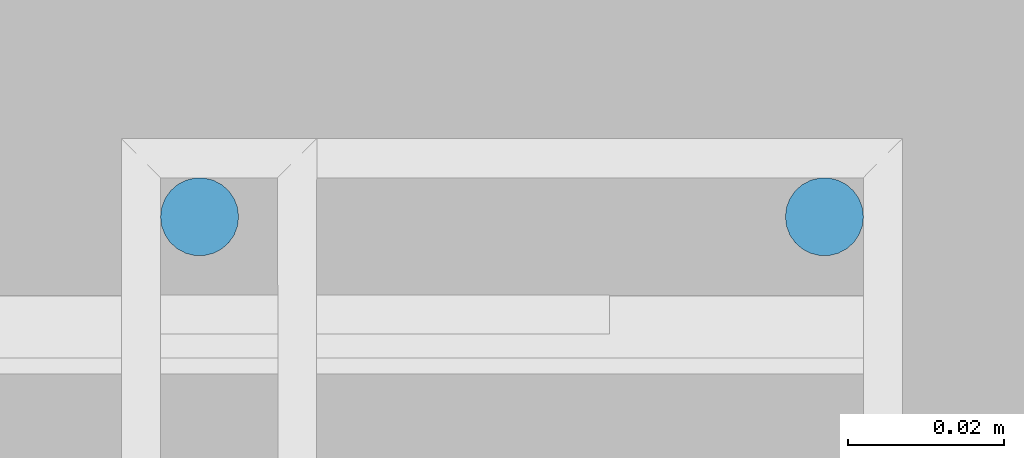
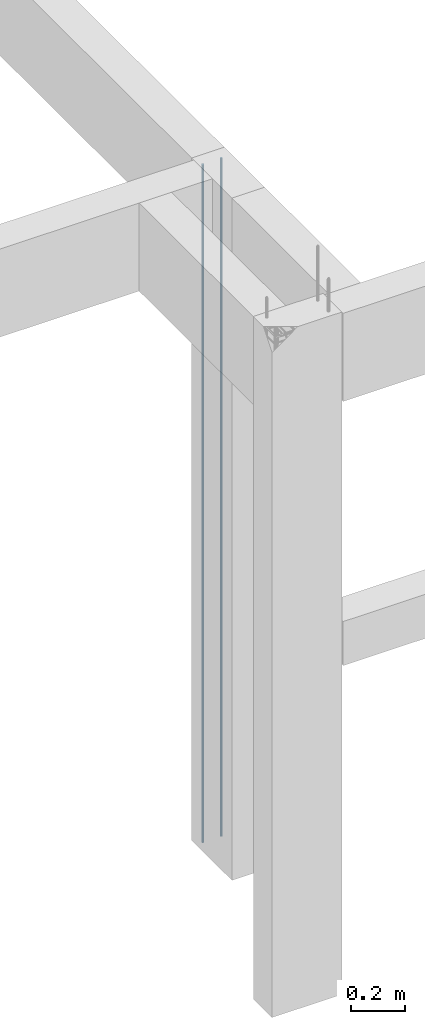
# One storey, part 15 of 236: 2 reinforcing bars.
"""IFC4 building model written with IfcOpenShell, lengths in centimetres."""

from ifc_helpers import new_model, entity, si_unit, derived_unit, frame, origin_with_axes, place, context, project, spatial, element, save


model = new_model("IFC4")

# Units and contexts
model_context = context("Model", 3, precision=1e-05, world=origin_with_axes(), identifier="Body")
ifc_project = project(units=[si_unit("LENGTHUNIT", "METRE", prefix="CENTI"), si_unit("VOLUMEUNIT", "CUBIC_METRE"), si_unit("AREAUNIT", "SQUARE_METRE"), si_unit("POWERUNIT", "WATT"), si_unit("LUMINOUSFLUXUNIT", "LUMEN"), si_unit("ELECTRICCURRENTUNIT", "AMPERE"), si_unit("PRESSUREUNIT", "PASCAL", prefix="KILO"), si_unit("MASSUNIT", "GRAM", prefix="KILO"), si_unit("PLANEANGLEUNIT", "RADIAN"), derived_unit("VOLUMETRICFLOWRATEUNIT", [(si_unit("LENGTHUNIT", "METRE"), 3), (si_unit("TIMEUNIT", "SECOND"), -1)])], contexts=[model_context])

# Site, building, storey
site_placement = place(None, frame((-4000.0, 0.0, 0.0), z_axis=(0.0, 0.0, 1.0), x_axis=(1.0, 0.0, 0.0)))
site = spatial("IfcSite", under=ifc_project, at=site_placement, Name="PADRÃO")
building_placement = place(site_placement, frame((0.0, 0.0, -14.0)))
building = spatial("IfcBuilding", under=site, at=building_placement, Name="CRECHE PRÉ-ESCOLA TIPO 2")
placement_1 = place(building_placement, origin_with_axes())
placement_2 = place(placement_1, frame((0.0, 0.0, 30.0), z_axis=(0.0, 0.0, 1.0), x_axis=(1.0, 0.0, 0.0)))
storey_placement = place(placement_2, frame((0.0, 0.0, 310.0), z_axis=(0.0, 0.0, 1.0), x_axis=(1.0, 0.0, 0.0)))
storey = spatial("IfcBuildingStorey", under=building, at=storey_placement, Name="TERREO", CompositionType="ELEMENT", Elevation=326.0)

# Reinforcing bars
for number, where, z_axis, x_axis, name in (
    (1, (499.57, 520.51, -2.0), (0.0, 0.0, 1.0), (1.0, 0.0, 0.0), "P136 - Longitudinal"),
    (2, (507.57, 520.51, -2.0), (0.0, 0.0, 1.0), (1.0, 0.0, 0.0), "P136 - Longitudinal"),
):
    element("IfcReinforcingBar", number, at=place(storey_placement, frame(where, z_axis=z_axis, x_axis=x_axis)), inside=storey, Name=name, BarLength=0.0, CrossSectionArea=7.853981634e-05, NominalDiameter=1.0, PredefinedType="MAIN", context=model_context, shape_type="AdvancedSweptSolid", body=[
        entity("IfcSweptDiskSolid", entity("IfcCompositeCurve", [entity("IfcCompositeCurveSegment", "CONTINUOUS", True, entity("IfcPolyline", [entity("IfcCartesianPoint", [0.0, 0.0, -308.0]), entity("IfcCartesianPoint", [0.0, 0.0, 0.0])]))], False), 0.5),
    ])

save(model, "model.ifc")
